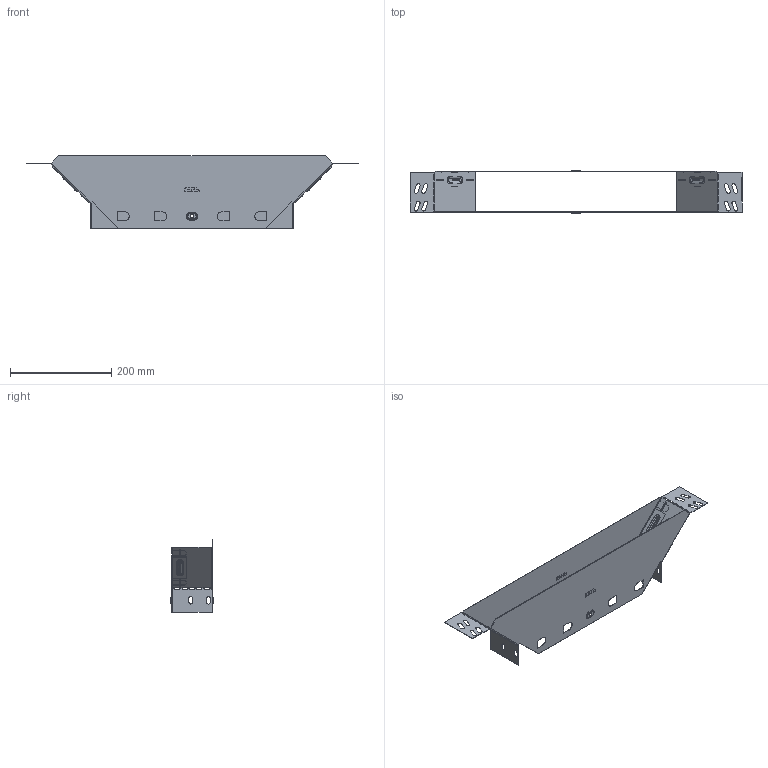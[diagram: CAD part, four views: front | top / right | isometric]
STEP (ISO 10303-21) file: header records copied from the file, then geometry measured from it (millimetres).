
FILE_DESCRIPTION (( 'STEP AP214' ), '1' );
FILE_NAME ('tn8040008_捘.STEP', '2019-06-10T08:00:28', ( '砐錪賧瘔蠈錪 Windows' ), ( '' ), 'SwSTEP 2.0', 'SolidWorks 2018', '' );
FILE_SCHEMA (( 'AUTOMOTIVE_DESIGN' ));
Length unit declared in the file: millimetre
Products named in the file (1): tn8040008_捘
Bounding box: 656.02 x 83.8 x 144 mm (x, y, z)
Volume: 124354 mm3; surface area: 315107.8 mm2
Topology: 2 solids, 2 shells, 666 faces, 1882 edges, 1196 vertices
Faces by surface type: plane 400, cylinder 200, torus 48, bspline 18
Entity records: 22389 total; most frequent: CARTESIAN_POINT 4703, ORIENTED_EDGE 3764, DIRECTION 3616, EDGE_CURVE 1882, LINE 1374, VECTOR 1374, VERTEX_POINT 1196, AXIS2_PLACEMENT_3D 1121
